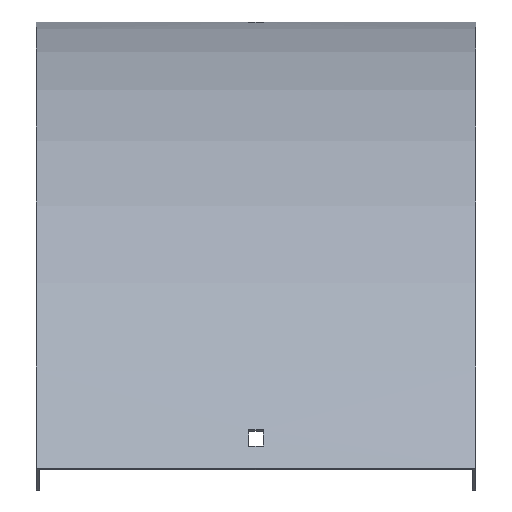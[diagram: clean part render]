
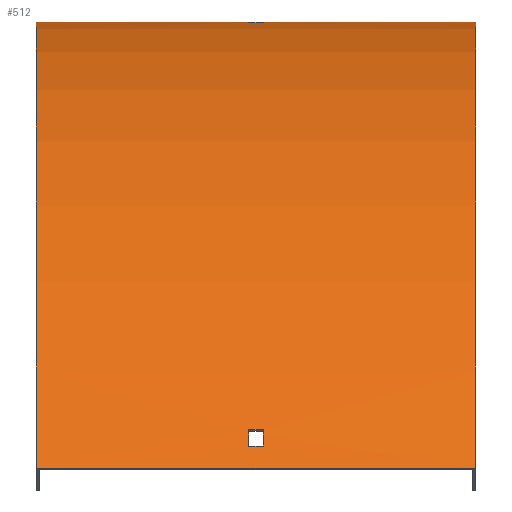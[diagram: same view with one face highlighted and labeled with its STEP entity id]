
A CAD part, top view. The second image highlights one B-rep face of the part: STEP entity #512.
In plain terms, the highlighted cylindrical face has radius 414 mm (diameter 828 mm), a partial arc.
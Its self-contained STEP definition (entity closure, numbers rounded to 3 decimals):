
#2 = CARTESIAN_POINT ( 'NONE',  ( 101.5, -207., 358.535 ) ) ;
#13 = DIRECTION ( 'NONE',  ( 1., 0., 0. ) ) ;
#14 = DIRECTION ( 'NONE',  ( 0., 0., -1. ) ) ;
#19 = DIRECTION ( 'NONE',  ( 0., 0., -1. ) ) ;
#21 = CARTESIAN_POINT ( 'NONE',  ( -3.25, -414., 0. ) ) ;
#29 = ORIENTED_EDGE ( 'NONE', *, *, #323, .F. ) ;
#39 = LINE ( 'NONE', #236, #294 ) ;
#40 = EDGE_CURVE ( 'NONE', #235, #215, #583, .T. ) ;
#44 = CARTESIAN_POINT ( 'NONE',  ( 101.5, -196.695, 352.384 ) ) ;
#45 = VERTEX_POINT ( 'NONE', #154 ) ;
#52 = EDGE_CURVE ( 'NONE', #483, #415, #168, .T. ) ;
#53 = EDGE_LOOP ( 'NONE', ( #310, #162, #29, #266 ) ) ;
#54 = CARTESIAN_POINT ( 'NONE',  ( -101.5, -207., 358.535 ) ) ;
#55 = DIRECTION ( 'NONE',  ( 1., 0., 0. ) ) ;
#63 = AXIS2_PLACEMENT_3D ( 'NONE', #333, #193, #105 ) ;
#72 = LINE ( 'NONE', #541, #326 ) ;
#86 = EDGE_CURVE ( 'NONE', #415, #419, #72, .T. ) ;
#89 = LINE ( 'NONE', #44, #253 ) ;
#91 = CARTESIAN_POINT ( 'NONE',  ( 3.25, -189.08, 347.573 ) ) ;
#93 = CARTESIAN_POINT ( 'NONE',  ( -3.25, -196.695, 352.384 ) ) ;
#97 = AXIS2_PLACEMENT_3D ( 'NONE', #489, #55, #19 ) ;
#103 = VECTOR ( 'NONE', #445, 1000. ) ;
#105 = DIRECTION ( 'NONE',  ( 0., 0., -1. ) ) ;
#117 = CARTESIAN_POINT ( 'NONE',  ( 101.5, -414., 0. ) ) ;
#118 = ORIENTED_EDGE ( 'NONE', *, *, #470, .F. ) ;
#135 = DIRECTION ( 'NONE',  ( 1., 0., 0. ) ) ;
#142 = VERTEX_POINT ( 'NONE', #273 ) ;
#144 = DIRECTION ( 'NONE',  ( 0., 0., 1. ) ) ;
#152 = AXIS2_PLACEMENT_3D ( 'NONE', #559, #477, #144 ) ;
#154 = CARTESIAN_POINT ( 'NONE',  ( 3.25, -196.695, 352.384 ) ) ;
#158 = CYLINDRICAL_SURFACE ( 'NONE', #454, 414. ) ;
#161 = DIRECTION ( 'NONE',  ( -1., 0., 0. ) ) ;
#162 = ORIENTED_EDGE ( 'NONE', *, *, #308, .F. ) ;
#167 = EDGE_CURVE ( 'NONE', #215, #45, #89, .T. ) ;
#168 = CIRCLE ( 'NONE', #97, 414. ) ;
#182 = AXIS2_PLACEMENT_3D ( 'NONE', #21, #13, #405 ) ;
#186 = CIRCLE ( 'NONE', #575, 414. ) ;
#191 = DIRECTION ( 'NONE',  ( 1., 0., 0. ) ) ;
#193 = DIRECTION ( 'NONE',  ( 1., 0., 0. ) ) ;
#195 = VECTOR ( 'NONE', #191, 1000. ) ;
#200 = LINE ( 'NONE', #246, #103 ) ;
#210 = CARTESIAN_POINT ( 'NONE',  ( 3.25, -0.533, 21. ) ) ;
#215 = VERTEX_POINT ( 'NONE', #93 ) ;
#222 = VERTEX_POINT ( 'NONE', #482 ) ;
#230 = ORIENTED_EDGE ( 'NONE', *, *, #40, .F. ) ;
#232 = CIRCLE ( 'NONE', #578, 414. ) ;
#235 = VERTEX_POINT ( 'NONE', #510 ) ;
#236 = CARTESIAN_POINT ( 'NONE',  ( 101.5, 0., 0. ) ) ;
#238 = CARTESIAN_POINT ( 'NONE',  ( 101.5, -207., 358.535 ) ) ;
#246 = CARTESIAN_POINT ( 'NONE',  ( 101.5, -189.08, 347.573 ) ) ;
#253 = VECTOR ( 'NONE', #135, 1000. ) ;
#266 = ORIENTED_EDGE ( 'NONE', *, *, #357, .T. ) ;
#267 = CARTESIAN_POINT ( 'NONE',  ( 3.25, -414., 0. ) ) ;
#273 = CARTESIAN_POINT ( 'NONE',  ( -3.25, -0.174, 12. ) ) ;
#277 = VERTEX_POINT ( 'NONE', #238 ) ;
#281 = EDGE_CURVE ( 'NONE', #419, #142, #338, .T. ) ;
#294 = VECTOR ( 'NONE', #569, 1000. ) ;
#308 = EDGE_CURVE ( 'NONE', #277, #487, #391, .T. ) ;
#310 = ORIENTED_EDGE ( 'NONE', *, *, #506, .T. ) ;
#317 = VERTEX_POINT ( 'NONE', #91 ) ;
#318 = DIRECTION ( 'NONE',  ( -1., 0., 0. ) ) ;
#323 = EDGE_CURVE ( 'NONE', #390, #277, #443, .T. ) ;
#326 = VECTOR ( 'NONE', #538, 1000. ) ;
#333 = CARTESIAN_POINT ( 'NONE',  ( 101.5, -414., 0. ) ) ;
#338 = CIRCLE ( 'NONE', #152, 414. ) ;
#344 = EDGE_CURVE ( 'NONE', #45, #317, #186, .T. ) ;
#347 = CARTESIAN_POINT ( 'NONE',  ( -3.25, -0.533, 21. ) ) ;
#354 = FACE_BOUND ( 'NONE', #411, .T. ) ;
#357 = EDGE_CURVE ( 'NONE', #390, #222, #39, .T. ) ;
#362 = VECTOR ( 'NONE', #318, 1000. ) ;
#384 = CARTESIAN_POINT ( 'NONE',  ( 101.5, 0., 0. ) ) ;
#387 = DIRECTION ( 'NONE',  ( -1., 0., 0. ) ) ;
#388 = EDGE_CURVE ( 'NONE', #142, #483, #427, .T. ) ;
#390 = VERTEX_POINT ( 'NONE', #384 ) ;
#391 = LINE ( 'NONE', #2, #362 ) ;
#403 = FACE_OUTER_BOUND ( 'NONE', #53, .T. ) ;
#405 = DIRECTION ( 'NONE',  ( 0., 1., 0. ) ) ;
#411 = EDGE_LOOP ( 'NONE', ( #503, #440, #528, #514 ) ) ;
#415 = VERTEX_POINT ( 'NONE', #210 ) ;
#419 = VERTEX_POINT ( 'NONE', #347 ) ;
#424 = DIRECTION ( 'NONE',  ( 0., 0., 1. ) ) ;
#427 = LINE ( 'NONE', #607, #195 ) ;
#440 = ORIENTED_EDGE ( 'NONE', *, *, #281, .T. ) ;
#443 = CIRCLE ( 'NONE', #63, 414. ) ;
#445 = DIRECTION ( 'NONE',  ( -1., 0., 0. ) ) ;
#448 = DIRECTION ( 'NONE',  ( 1., 0., 0. ) ) ;
#454 = AXIS2_PLACEMENT_3D ( 'NONE', #117, #161, #572 ) ;
#470 = EDGE_CURVE ( 'NONE', #317, #235, #200, .T. ) ;
#477 = DIRECTION ( 'NONE',  ( -1., 0., 0. ) ) ;
#482 = CARTESIAN_POINT ( 'NONE',  ( -101.5, 0., 0. ) ) ;
#483 = VERTEX_POINT ( 'NONE', #582 ) ;
#487 = VERTEX_POINT ( 'NONE', #54 ) ;
#489 = CARTESIAN_POINT ( 'NONE',  ( 3.25, -414., 0. ) ) ;
#503 = ORIENTED_EDGE ( 'NONE', *, *, #86, .T. ) ;
#506 = EDGE_CURVE ( 'NONE', #222, #487, #232, .T. ) ;
#510 = CARTESIAN_POINT ( 'NONE',  ( -3.25, -189.08, 347.573 ) ) ;
#512 = ADVANCED_FACE ( 'NONE', ( #403, #354, #580 ), #158, .T. ) ;
#514 = ORIENTED_EDGE ( 'NONE', *, *, #52, .T. ) ;
#528 = ORIENTED_EDGE ( 'NONE', *, *, #388, .T. ) ;
#538 = DIRECTION ( 'NONE',  ( -1., 0., 0. ) ) ;
#541 = CARTESIAN_POINT ( 'NONE',  ( 101.5, -0.533, 21. ) ) ;
#542 = EDGE_LOOP ( 'NONE', ( #230, #118, #567, #564 ) ) ;
#559 = CARTESIAN_POINT ( 'NONE',  ( -3.25, -414., 0. ) ) ;
#564 = ORIENTED_EDGE ( 'NONE', *, *, #167, .F. ) ;
#567 = ORIENTED_EDGE ( 'NONE', *, *, #344, .F. ) ;
#569 = DIRECTION ( 'NONE',  ( -1., 0., 0. ) ) ;
#572 = DIRECTION ( 'NONE',  ( 0., 0., 1. ) ) ;
#574 = CARTESIAN_POINT ( 'NONE',  ( -101.5, -414., 0. ) ) ;
#575 = AXIS2_PLACEMENT_3D ( 'NONE', #267, #387, #424 ) ;
#578 = AXIS2_PLACEMENT_3D ( 'NONE', #574, #448, #14 ) ;
#580 = FACE_BOUND ( 'NONE', #542, .T. ) ;
#582 = CARTESIAN_POINT ( 'NONE',  ( 3.25, -0.174, 12. ) ) ;
#583 = CIRCLE ( 'NONE', #182, 414. ) ;
#607 = CARTESIAN_POINT ( 'NONE',  ( 101.5, -0.174, 12. ) ) ;
